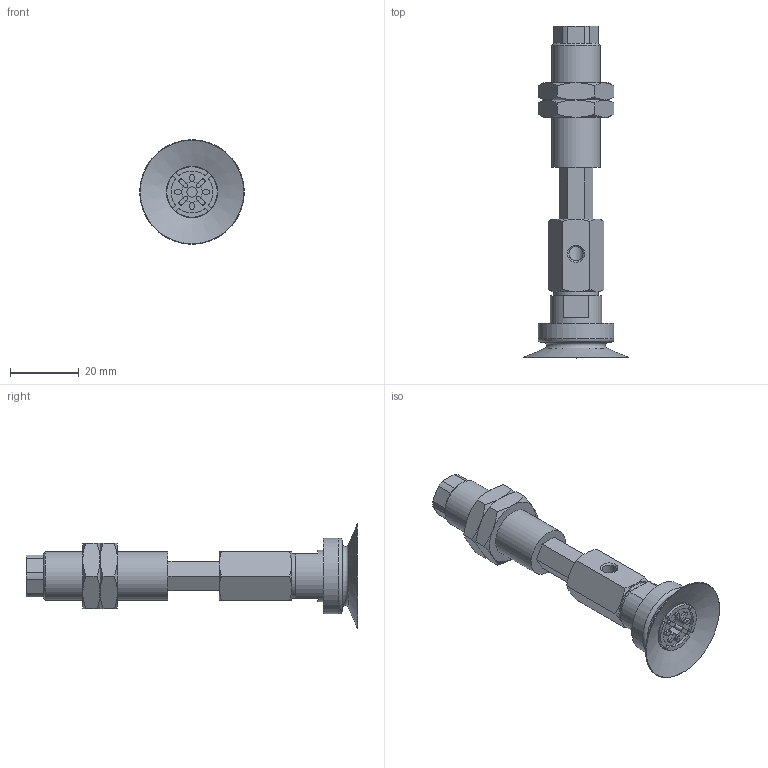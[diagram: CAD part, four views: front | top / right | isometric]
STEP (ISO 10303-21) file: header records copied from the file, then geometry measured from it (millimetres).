
FILE_DESCRIPTION(('STEP AP203'),'1');
FILE_NAME('.stp','2025-03-13T08:09:13',(' '),(' '),'Spatial InterOp 3D',' ',' ');
FILE_SCHEMA(('CONFIG_CONTROL_DESIGN'));
Length unit declared in the file: millimetre
Products named in the file (6): BNABPAYH-30-15-※; CONNECTOR-30-15-PA; Nut-25-S; NAPAYH-30-15--F; NAPAYH-30-15--M; BPAG-30-※
Assembly tree (6 placements, depth 2):
  BNABPAYH-30-15-※
    CONNECTOR-30-15-PA
    Nut-25-S  x2
    NAPAYH-30-15--F
    NAPAYH-30-15--M
    BPAG-30-※
Bounding box: 30.3 x 96.2 x 30.3 mm (x, y, z)
Volume: 15890.1 mm3; surface area: 11810.4 mm2
Topology: 6 solids, 6 shells, 208 faces, 484 edges, 305 vertices
Faces by surface type: plane 99, cylinder 56, cone 51, torus 2
Full cylindrical faces by diameter (mm): 3 x2, 4.134 x2, 4.6 x1, 4.917 x1, 5 x1, 6 x1, 12.917 x2, 13 x1, 14 x1, 15 x1, 22 x1
Entity records: 5768 total; most frequent: CARTESIAN_POINT 1267, DIRECTION 900, ORIENTED_EDGE 814, EDGE_CURVE 407, AXIS2_PLACEMENT_3D 352, VERTEX_POINT 275, EDGE_LOOP 238, FACE_OUTER_BOUND 200
